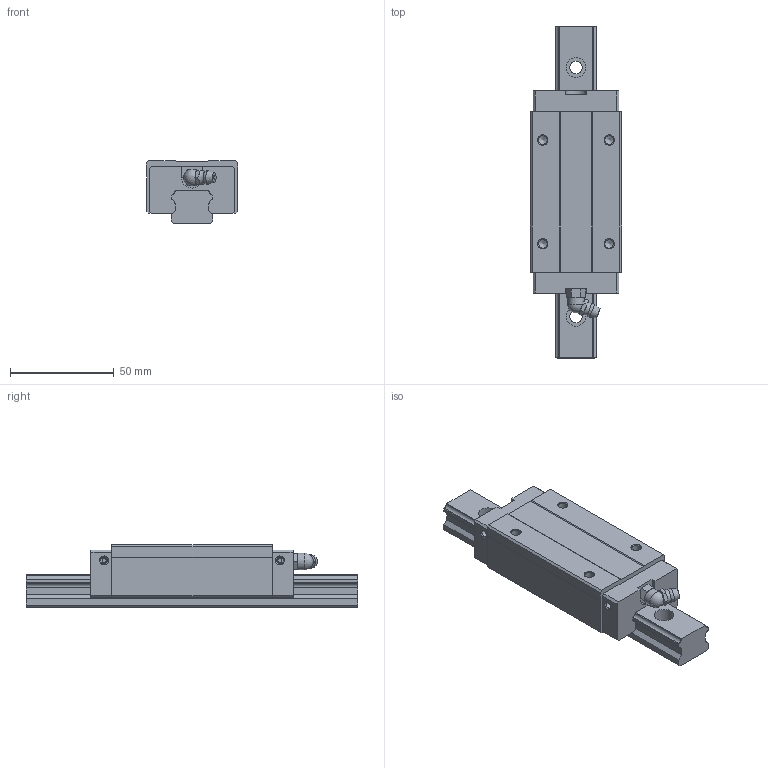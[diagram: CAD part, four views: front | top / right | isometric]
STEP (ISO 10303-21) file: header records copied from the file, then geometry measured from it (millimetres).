
FILE_DESCRIPTION(/* description */ (''),/* implementation_level */ '2;1');
FILE_NAME(/* name */ 'SME20-LSA',/* time_stamp */ '2008-10-06T10:14:17+08:00',/* author */ (''),/* organization */ (''),/* preprocessor_version */ 'ST-DEVELOPER v11',/* originating_system */ 'UGS - NX 5.0',/* authorisation */ '');
FILE_SCHEMA (('AUTOMOTIVE_DESIGN { 1 0 10303 214 1 1 1 1 }'));
Length unit declared in the file: millimetre
Products named in the file (1): jillBD1Calhv
Bounding box: 44 x 160 x 30 mm (x, y, z)
Volume: 127987.7 mm3; surface area: 31469.5 mm2
Topology: 3 solids, 3 shells, 164 faces, 425 edges, 280 vertices
Faces by surface type: plane 98, cylinder 43, cone 13, torus 7, sphere 2, bspline 1
Full cylindrical faces by diameter (mm): 2 x4, 3.3 x4, 4.2 x4, 6 x3, 6.5 x2, 8 x1, 9.5 x3
Entity records: 5049 total; most frequent: CARTESIAN_POINT 961, DIRECTION 788, ORIENTED_EDGE 734, EDGE_CURVE 367, AXIS2_PLACEMENT_3D 275, VERTEX_POINT 264, LINE 238, VECTOR 238
